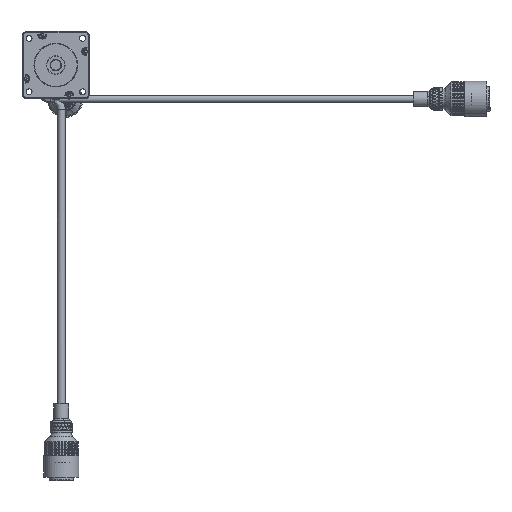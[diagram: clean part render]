
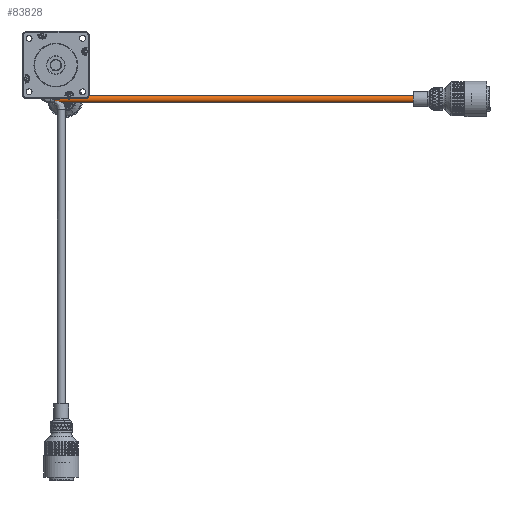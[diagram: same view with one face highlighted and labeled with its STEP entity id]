
A CAD part, top view. The second image highlights one B-rep face of the part: STEP entity #83828.
In plain terms, the highlighted cylindrical face has radius 3.375 mm (diameter 6.75 mm), a partial arc.
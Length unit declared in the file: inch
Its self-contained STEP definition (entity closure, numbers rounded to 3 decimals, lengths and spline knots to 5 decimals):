
#83728 = EDGE_CURVE ( 'NONE', #83731, #83732, #108023, .T. ) ;
#83731 = VERTEX_POINT ( 'NONE', #108018 ) ;
#83732 = VERTEX_POINT ( 'NONE', #108017 ) ;
#83781 = ORIENTED_EDGE ( 'NONE', *, *, #83728, .T. ) ;
#83783 = ORIENTED_EDGE ( 'NONE', *, *, #83784, .F. ) ;
#83784 = EDGE_CURVE ( 'NONE', #83839, #83732, #108090, .T. ) ;
#83828 = ADVANCED_FACE ( 'NONE', ( #108155 ), #108154, .T. ) ;
#83830 = EDGE_LOOP ( 'NONE', ( #83832, #83925, #83781, #83783 ) ) ;
#83832 = ORIENTED_EDGE ( 'NONE', *, *, #83836, .T. ) ;
#83836 = EDGE_CURVE ( 'NONE', #83839, #83840, #108153, .T. ) ;
#83839 = VERTEX_POINT ( 'NONE', #108144 ) ;
#83840 = VERTEX_POINT ( 'NONE', #108143 ) ;
#83925 = ORIENTED_EDGE ( 'NONE', *, *, #83927, .F. ) ;
#83927 = EDGE_CURVE ( 'NONE', #83731, #83840, #108246, .T. ) ;
#108017 = CARTESIAN_POINT ( 'NONE',  ( -0.17349, -1.30153, -3.93661 ) ) ;
#108018 = CARTESIAN_POINT ( 'NONE',  ( -0.17349, -1.03578, -3.93661 ) ) ;
#108019 = DIRECTION ( 'NONE',  ( 0., -1., 0. ) ) ;
#108020 = DIRECTION ( 'NONE',  ( 1., 0., 0. ) ) ;
#108021 = CARTESIAN_POINT ( 'NONE',  ( -0.17349, -1.16865, -3.93661 ) ) ;
#108022 = AXIS2_PLACEMENT_3D ( 'NONE', #108021, #108020, #108019 ) ;
#108023 = CIRCLE ( 'NONE', #108022, 0.13287 ) ;
#108087 = DIRECTION ( 'NONE',  ( -1., 0., 0. ) ) ;
#108088 = VECTOR ( 'NONE', #108087, 39.37008 ) ;
#108089 = CARTESIAN_POINT ( 'NONE',  ( -0.17349, -1.30153, -3.93661 ) ) ;
#108090 = LINE ( 'NONE', #108089, #108088 ) ;
#108143 = CARTESIAN_POINT ( 'NONE',  ( 14.20151, -1.03578, -3.93661 ) ) ;
#108144 = CARTESIAN_POINT ( 'NONE',  ( 14.20151, -1.30153, -3.93661 ) ) ;
#108145 = DIRECTION ( 'NONE',  ( 0., -1., 0. ) ) ;
#108146 = DIRECTION ( 'NONE',  ( -1., 0., 0. ) ) ;
#108147 = CARTESIAN_POINT ( 'NONE',  ( 14.20151, -1.16865, -3.93661 ) ) ;
#108148 = AXIS2_PLACEMENT_3D ( 'NONE', #108147, #108146, #108145 ) ;
#108149 = DIRECTION ( 'NONE',  ( 0., -1., 0. ) ) ;
#108150 = DIRECTION ( 'NONE',  ( 1., 0., 0. ) ) ;
#108151 = CARTESIAN_POINT ( 'NONE',  ( -0.17349, -1.16865, -3.93661 ) ) ;
#108152 = AXIS2_PLACEMENT_3D ( 'NONE', #108151, #108150, #108149 ) ;
#108153 = CIRCLE ( 'NONE', #108148, 0.13287 ) ;
#108154 = CYLINDRICAL_SURFACE ( 'NONE', #108152, 0.13287 ) ;
#108155 = FACE_OUTER_BOUND ( 'NONE', #83830, .T. ) ;
#108243 = DIRECTION ( 'NONE',  ( 1., 0., 0. ) ) ;
#108244 = VECTOR ( 'NONE', #108243, 39.37008 ) ;
#108245 = CARTESIAN_POINT ( 'NONE',  ( -0.17349, -1.03578, -3.93661 ) ) ;
#108246 = LINE ( 'NONE', #108245, #108244 ) ;
